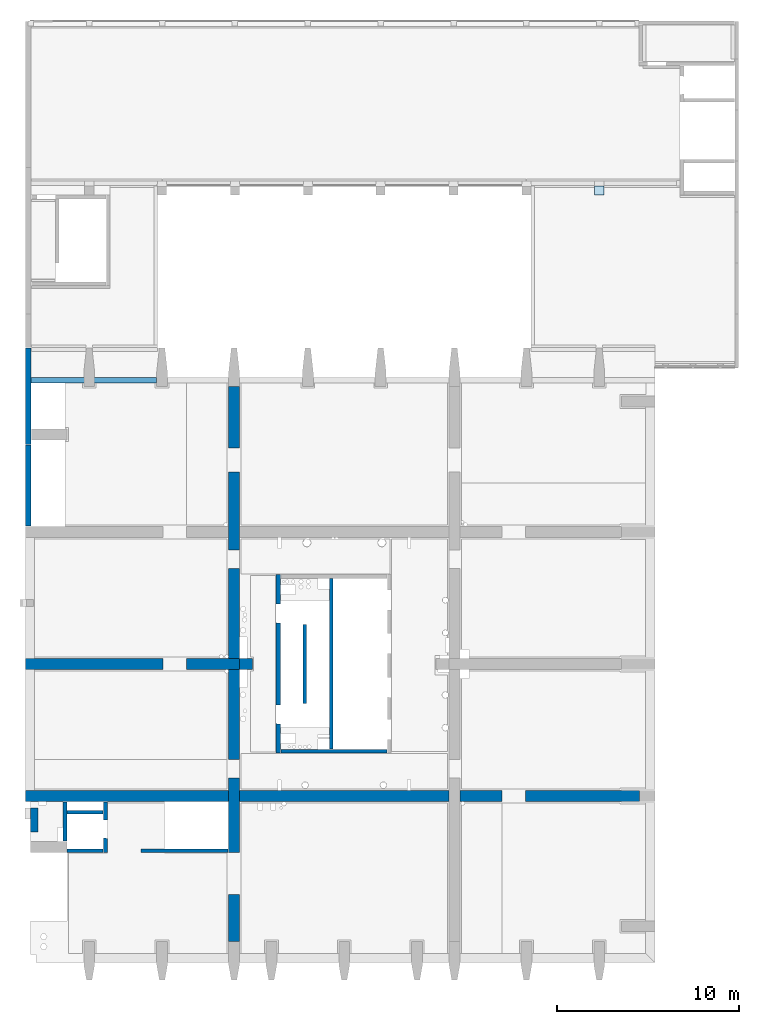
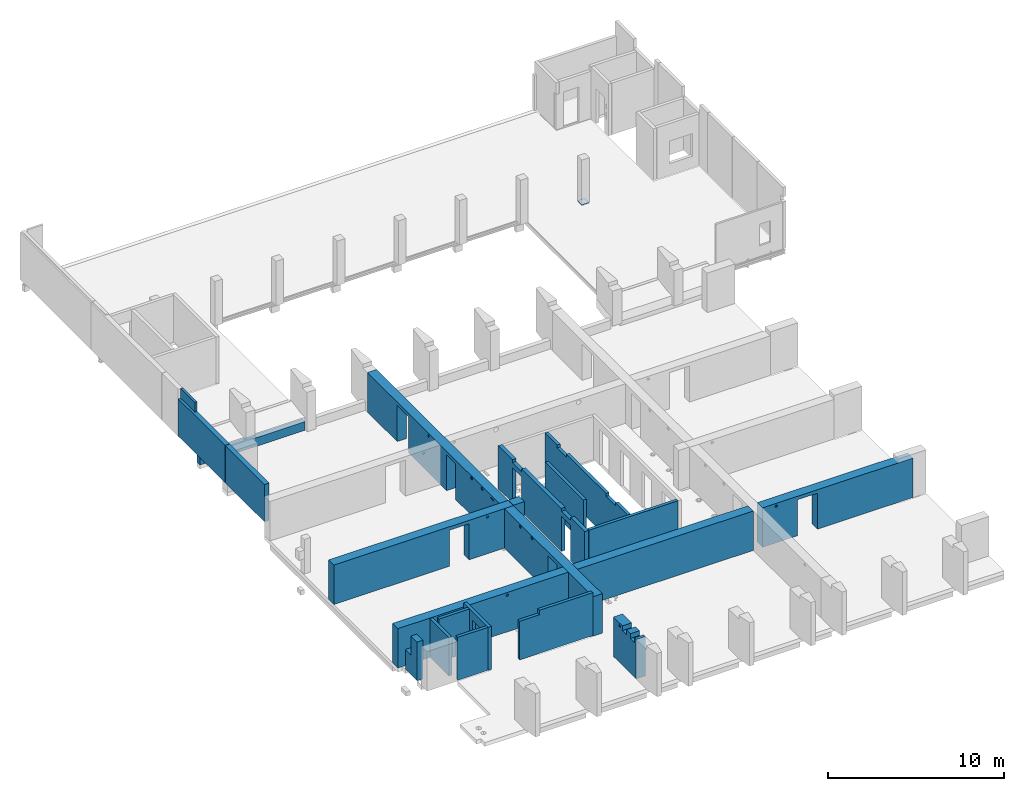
# One storey, part 7 of 10: 17 walls, 1 slab, 39 openings.
"""IFC2X3 building model written with IfcOpenShell, lengths in millimetres."""

from ifc_helpers import new_model, entity, si_unit, converted_unit, derived_unit, direction, frame, frame_2d, origin, origin_2d_with_axis, place, context, subcontext, project, spatial, polyline, rectangle, circle, extrude, clip, bounded_halfspace, faceted_brep, material, layer, layer_set, layer_usage, type_object, element, save


model = new_model("IFC2X3")

# Units and contexts
model_context = context("Model", 3, precision=0.01, world=origin(), true_north=direction((6.12303176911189e-17, 1.0)))
body_context = subcontext(model_context, "Body", "Model", "MODEL_VIEW")
ifc_project = project(units=[si_unit("LENGTHUNIT", "METRE", prefix="MILLI"), si_unit("AREAUNIT", "SQUARE_METRE"), si_unit("VOLUMEUNIT", "CUBIC_METRE"), converted_unit("PLANEANGLEUNIT", "DEGREE", entity("IfcRatioMeasure", 0.0174532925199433), si_unit("PLANEANGLEUNIT", "RADIAN"), dimensions=[0, 0, 0, 0, 0, 0, 0]), si_unit("MASSUNIT", "GRAM", prefix="KILO"), derived_unit("MASSDENSITYUNIT", [(si_unit("MASSUNIT", "GRAM", prefix="KILO"), 1), (si_unit("LENGTHUNIT", "METRE"), -3)]), si_unit("TIMEUNIT", "SECOND"), si_unit("FREQUENCYUNIT", "HERTZ"), si_unit("THERMODYNAMICTEMPERATUREUNIT", "DEGREE_CELSIUS"), derived_unit("THERMALTRANSMITTANCEUNIT", [(si_unit("MASSUNIT", "GRAM", prefix="KILO"), 1), (si_unit("THERMODYNAMICTEMPERATUREUNIT", "KELVIN"), -1), (si_unit("TIMEUNIT", "SECOND"), -3)]), derived_unit("VOLUMETRICFLOWRATEUNIT", [(si_unit("LENGTHUNIT", "METRE"), 3), (si_unit("TIMEUNIT", "SECOND"), -1)]), si_unit("ELECTRICCURRENTUNIT", "AMPERE"), si_unit("ELECTRICVOLTAGEUNIT", "VOLT"), si_unit("POWERUNIT", "WATT"), si_unit("FORCEUNIT", "NEWTON", prefix="KILO"), si_unit("ILLUMINANCEUNIT", "LUX"), si_unit("LUMINOUSFLUXUNIT", "LUMEN"), si_unit("LUMINOUSINTENSITYUNIT", "CANDELA"), derived_unit("USERDEFINED", [(si_unit("MASSUNIT", "GRAM", prefix="KILO"), -1), (si_unit("LENGTHUNIT", "METRE"), -2), (si_unit("TIMEUNIT", "SECOND"), 3), (si_unit("LUMINOUSFLUXUNIT", "LUMEN"), 1)]), derived_unit("LINEARVELOCITYUNIT", [(si_unit("LENGTHUNIT", "METRE"), 1), (si_unit("TIMEUNIT", "SECOND"), -1)]), si_unit("PRESSUREUNIT", "PASCAL"), derived_unit("USERDEFINED", [(si_unit("LENGTHUNIT", "METRE"), -2), (si_unit("MASSUNIT", "GRAM", prefix="KILO"), 1), (si_unit("TIMEUNIT", "SECOND"), -2)])], contexts=[model_context])

# Site, building, storey
site_placement = place(None, origin())
site = spatial("IfcSite", under=ifc_project, at=site_placement, Name="Default", CompositionType="ELEMENT")
building_placement = place(site_placement, origin())
building = spatial("IfcBuilding", under=site, at=building_placement, Name="niet gebruiken", CompositionType="ELEMENT")
storey_placement = place(building_placement, frame((0.0, 0.0, 9000.0)))
storey = spatial("IfcBuildingStorey", under=building, at=storey_placement, Name="02 tweede verdieping", CompositionType="ELEMENT", Elevation=9000.00000000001)

# Slab
ifc_material_1 = material(Name="NLRS_f2_beton ihwg")
ifc_layer_1 = layer(ifc_material_1, 70.0)
ifc_layer_set_1 = layer_set([ifc_layer_1], Name="Floor:NLRS_23.21_FL_druklaag d=70_gen")
ifc_layer_usage_1 = layer_usage(ifc_layer_set_1, "AXIS3", "POSITIVE", 0.0)
slab_placement = place(storey_placement, frame((124550.0, 38470.0, 740.0)))
element("IfcSlab", 1, at=slab_placement, inside=storey, material=ifc_layer_usage_1, Name="Floor:NLRS_23.21_FL_druklaag d=70_gen:3", ObjectType="Floor:NLRS_23.21_FL_druklaag d=70_gen", PredefinedType="FLOOR", context=body_context, shape_type="SweptSolid", body=[
    extrude(rectangle(XDim=499.999999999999, YDim=499.999999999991, at=frame_2d((-14515.0, -2120.0), x_axis=(0.0, -1.0))), frame((16685.0, 7150.0, 70.0), z_axis=(0.0, 0.0, -1.0), x_axis=(-1.0, 0.0, 0.0)), (0.0, 0.0, 1.0), 70.0000000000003),
])

# Wall, openings
ifc_layer_2 = layer(ifc_material_1, 600.0)
ifc_layer_set_2 = layer_set([ifc_layer_2], Name="Basic Wall:NLRS_22.21_WA_beton ihwg d=600_gen")
ifc_layer_usage_2 = layer_usage(ifc_layer_set_2, "AXIS2", "NEGATIVE", 300.0)
wall_type_1 = type_object("IfcWallType", Name="Basic Wall:NLRS_22.21_WA_beton ihwg d=600_gen", PredefinedType="STANDARD", material=ifc_layer_set_2)
wall_1_placement = place(storey_placement, frame((124250.0, 10250.0, -90.0)))
wall_1 = element("IfcWallStandardCase", 2, at=wall_1_placement, inside=storey, type_object=wall_type_1, material=ifc_layer_usage_2, Name="Basic Wall:NLRS_22.21_WA_beton ihwg d=600_gen", ObjectType="Basic Wall:NLRS_22.21_WA_beton ihwg d=600_gen", context=body_context, shape_type="SweptSolid", body=[
    extrude(rectangle(XDim=33701.2869612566, YDim=600.000000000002, at=frame_2d((16850.6434806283, 0.0), x_axis=(-1.0, 0.0))), origin(), (0.0, 0.0, 1.0), 2730.0),
])
opening_1_placement = place(storey_placement, frame((124250.0, 10250.0, -90.0)))
element("IfcOpeningElement", 3, at=opening_1_placement, cuts=wall_1, Name="Basic Wall:NLRS_22.21_WA_beton ihwg d=600_gen:1", ObjectType="Opening", context=body_context, shape_type="SweptSolid", body=[
    extrude(rectangle(XDim=2730.0, YDim=600.0, at=origin_2d_with_axis()), frame((11150.0, 0.0, 1365.0), z_axis=(1.0, 0.0, 0.0), x_axis=(0.0, 0.0, -1.0)), (0.0, 0.0, 1.0), 600.000000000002),
])
opening_2_placement = place(storey_placement, frame((124250.0, 10250.0, -90.0)))
element("IfcOpeningElement", 4, at=opening_2_placement, cuts=wall_1, Name="Basic Wall:NLRS_22.21_WA_beton ihwg d=600_gen:2", ObjectType="Opening", context=body_context, shape_type="SweptSolid", body=[
    extrude(rectangle(XDim=2730.0, YDim=600.0, at=frame_2d((0.0, -1.08002495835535e-12), x_axis=(1.0, 0.0))), frame((23250.0, 0.0, 1365.0), z_axis=(1.0, 0.0, 0.0), x_axis=(0.0, 0.0, -1.0)), (0.0, 0.0, 1.0), 600.000000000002),
])
opening_3_placement = place(wall_1_placement, origin())
element("IfcOpeningElement", 5, at=opening_3_placement, cuts=wall_1, Name="Basic Wall:NLRS_22.21_WA_beton ihwg d=600_gen", ObjectType="Opening", context=body_context, shape_type="SweptSolid", body=[
    extrude(rectangle(XDim=2490.0, YDim=1300.0, at=frame_2d((1.70530256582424e-12, -8.69704308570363e-12), x_axis=(1.0, 0.0))), frame((26800.0, -300.0, 1245.0), z_axis=(0.0, 1.0, 0.0), x_axis=(0.0, 0.0, -1.0)), (0.0, 0.0, 1.0), 600.0),
])
opening_4_placement = place(wall_1_placement, origin())
element("IfcOpeningElement", 6, at=opening_4_placement, cuts=wall_1, Name="Basic Wall:NLRS_22.21_WA_beton ihwg d=600_gen", ObjectType="Opening", context=body_context, shape_type="SweptSolid", body=[
    extrude(circle(Radius=80.0, at=origin_2d_with_axis()), frame((7150.0, -300.0, 2540.0), z_axis=(0.0, 1.0, 0.0), x_axis=(-1.0, 0.0, 0.0)), (0.0, 0.0, 1.0), 600.0),
])
opening_5_placement = place(wall_1_placement, origin())
element("IfcOpeningElement", 7, at=opening_5_placement, cuts=wall_1, Name="Basic Wall:NLRS_22.21_WA_beton ihwg d=600_gen", ObjectType="Opening", context=body_context, shape_type="SweptSolid", body=[
    extrude(circle(Radius=80.0, at=origin_2d_with_axis()), frame((24750.0, -300.0, 2540.0), z_axis=(0.0, 1.0, 0.0), x_axis=(-1.0, 0.0, 0.0)), (0.0, 0.0, 1.0), 600.0),
])

ifc_layer_usage_3 = layer_usage(ifc_layer_set_2, "AXIS2", "NEGATIVE", 300.0)
wall_2_placement = place(storey_placement, frame((124250.0, 17500.0, -90.0)))
wall_2 = element("IfcWallStandardCase", 8, at=wall_2_placement, inside=storey, type_object=wall_type_1, material=ifc_layer_usage_3, Name="Basic Wall:NLRS_22.21_WA_beton ihwg d=600_gen", ObjectType="Basic Wall:NLRS_22.21_WA_beton ihwg d=600_gen", context=body_context, shape_type="SweptSolid", body=[
    extrude(rectangle(XDim=11750.0000000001, YDim=599.999999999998, at=frame_2d((5875.00000000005, 0.0), x_axis=(-1.0, 0.0))), origin(), (0.0, 0.0, 1.0), 2730.0),
])
opening_6_placement = place(wall_2_placement, origin())
element("IfcOpeningElement", 9, at=opening_6_placement, cuts=wall_2, Name="Basic Wall:NLRS_22.21_WA_beton ihwg d=600_gen", ObjectType="Opening", context=body_context, shape_type="SweptSolid", body=[
    extrude(rectangle(XDim=2490.0, YDim=1300.0, at=frame_2d((-5.6843418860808e-13, 8.69704308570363e-12), x_axis=(1.0, 0.0))), frame((8200.0, -300.0, 1245.0), z_axis=(0.0, 1.0, 0.0), x_axis=(0.0, 0.0, -1.0)), (0.0, 0.0, 1.0), 600.0),
])
opening_7_placement = place(wall_2_placement, origin())
element("IfcOpeningElement", 10, at=opening_7_placement, cuts=wall_2, Name="Basic Wall:NLRS_22.21_WA_beton ihwg d=600_gen", ObjectType="Opening", context=body_context, shape_type="SweptSolid", body=[
    extrude(circle(Radius=80.0, at=origin_2d_with_axis()), frame((10050.0, -300.0, 2540.0), z_axis=(0.0, 1.0, 0.0), x_axis=(1.0, 0.0, 0.0)), (0.0, 0.0, 1.0), 600.0),
])

ifc_layer_usage_4 = layer_usage(ifc_layer_set_2, "AXIS2", "NEGATIVE", 300.0)
wall_3_placement = place(storey_placement, frame((135700.0, 2270.0, -90.0), z_axis=(0.0, 0.0, 1.0), x_axis=(0.0, 1.0, 0.0)))
wall_3 = element("IfcWallStandardCase", 11, at=wall_3_placement, inside=storey, type_object=wall_type_1, material=ifc_layer_usage_4, Name="Basic Wall:NLRS_22.21_WA_beton ihwg d=600_gen", ObjectType="Basic Wall:NLRS_22.21_WA_beton ihwg d=600_gen", context=body_context, shape_type="SweptSolid", body=[
    extrude(rectangle(XDim=30460.0000000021, YDim=600.000000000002, at=frame_2d((15230.000000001, 8.5265128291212e-13), x_axis=(-1.0, 0.0))), origin(), (0.0, 0.0, 1.0), 2730.0),
])
opening_8_placement = place(storey_placement, frame((135700.0, 2270.0, -90.0), z_axis=(0.0, 0.0, 1.0), x_axis=(0.0, 1.0, 0.0)))
element("IfcOpeningElement", 12, at=opening_8_placement, cuts=wall_3, Name="Basic Wall:NLRS_22.21_WA_beton ihwg d=600_gen:1", ObjectType="Opening", context=body_context, shape_type="SweptSolid", body=[
    extrude(rectangle(XDim=2730.0, YDim=600.000000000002, at=origin_2d_with_axis()), frame((14930.0, 0.0, 1365.0), z_axis=(1.0, 0.0, 0.0), x_axis=(0.0, 0.0, -1.0)), (0.0, 0.0, 1.0), 600.0),
])
opening_9_placement = place(wall_3_placement, origin())
element("IfcOpeningElement", 13, at=opening_9_placement, cuts=wall_3, Name="Basic Wall:NLRS_22.21_WA_beton ihwg d=600_gen", ObjectType="Opening", context=body_context, shape_type="SweptSolid", body=[
    extrude(rectangle(XDim=2475.0, YDim=1016.0, at=frame_2d((-5.6843418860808e-13, 1.08002495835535e-12), x_axis=(1.0, 0.0))), frame((9488.0, -300.0, 1237.5), z_axis=(0.0, 1.0, 0.0), x_axis=(0.0, 0.0, -1.0)), (0.0, 0.0, 1.0), 600.000000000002),
])
opening_10_placement = place(wall_3_placement, origin())
element("IfcOpeningElement", 14, at=opening_10_placement, cuts=wall_3, Name="Basic Wall:NLRS_22.21_WA_beton ihwg d=600_gen", ObjectType="Opening", context=body_context, shape_type="SweptSolid", body=[
    extrude(rectangle(XDim=2475.0, YDim=1016.0, at=frame_2d((-5.6843418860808e-13, -2.1600499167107e-12), x_axis=(1.0, 0.0))), frame((20972.0, -300.0, 1237.5), z_axis=(0.0, 1.0, 0.0), x_axis=(0.0, 0.0, -1.0)), (0.0, 0.0, 1.0), 600.000000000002),
])
opening_11_placement = place(wall_3_placement, origin())
element("IfcOpeningElement", 15, at=opening_11_placement, cuts=wall_3, Name="Basic Wall:NLRS_22.21_WA_beton ihwg d=600_gen", ObjectType="Opening", context=body_context, shape_type="SweptSolid", body=[
    extrude(rectangle(XDim=2490.0, YDim=1300.0, at=frame_2d((-5.6843418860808e-13, 0.0), x_axis=(1.0, 0.0))), frame((26430.0, -300.0, 1245.0), z_axis=(0.0, 1.0, 0.0), x_axis=(0.0, 0.0, -1.0)), (0.0, 0.0, 1.0), 600.000000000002),
])
opening_12_placement = place(wall_3_placement, origin())
element("IfcOpeningElement", 16, at=opening_12_placement, cuts=wall_3, Name="Basic Wall:NLRS_22.21_WA_beton ihwg d=600_gen", ObjectType="Opening", context=body_context, shape_type="SweptSolid", body=[
    extrude(rectangle(XDim=2730.0, YDim=2300.0, at=frame_2d((5.6843418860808e-13, -3.41060513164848e-13), x_axis=(1.0, 0.0))), frame((3730.0, -300.0, 1365.0), z_axis=(0.0, 1.0, 0.0), x_axis=(0.0, 0.0, -1.0)), (0.0, 0.0, 1.0), 600.000000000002),
])
opening_13_placement = place(wall_3_placement, origin())
element("IfcOpeningElement", 17, at=opening_13_placement, cuts=wall_3, Name="Basic Wall:NLRS_22.21_WA_beton ihwg d=600_gen", ObjectType="Opening", context=body_context, shape_type="SweptSolid", body=[
    extrude(rectangle(XDim=325.0, YDim=450.000000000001, at=frame_2d((0.0, -2.70006239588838e-13), x_axis=(1.0, 0.0))), frame((430.0, -300.0, 2567.5), z_axis=(0.0, 1.0, 0.0), x_axis=(0.0, 0.0, -1.0)), (0.0, 0.0, 1.0), 600.000000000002),
])
opening_14_placement = place(wall_3_placement, origin())
element("IfcOpeningElement", 18, at=opening_14_placement, cuts=wall_3, Name="Basic Wall:NLRS_22.21_WA_beton ihwg d=600_gen", ObjectType="Opening", context=body_context, shape_type="SweptSolid", body=[
    extrude(rectangle(XDim=325.0, YDim=450.000000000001, at=frame_2d((0.0, 2.70006239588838e-13), x_axis=(1.0, 0.0))), frame((1330.0, -300.0, 2567.5), z_axis=(0.0, 1.0, 0.0), x_axis=(0.0, 0.0, -1.0)), (0.0, 0.0, 1.0), 600.000000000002),
])
opening_15_placement = place(wall_3_placement, origin())
element("IfcOpeningElement", 19, at=opening_15_placement, cuts=wall_3, Name="Basic Wall:NLRS_22.21_WA_beton ihwg d=600_gen", ObjectType="Opening", context=body_context, shape_type="SweptSolid", body=[
    extrude(circle(Radius=80.0, at=origin_2d_with_axis()), frame((23530.0, -300.0, 2540.0), z_axis=(0.0, 1.0, 0.0), x_axis=(1.0, 0.0, 0.0)), (0.0, 0.0, 1.0), 600.000000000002),
])
opening_16_placement = place(wall_3_placement, origin())
element("IfcOpeningElement", 20, at=opening_16_placement, cuts=wall_3, Name="Basic Wall:NLRS_22.21_WA_beton ihwg d=600_gen", ObjectType="Opening", context=body_context, shape_type="SweptSolid", body=[
    extrude(circle(Radius=100.0, at=origin_2d_with_axis()), frame((11810.0000242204, -300.0, 2570.0), z_axis=(0.0, 1.0, 0.0), x_axis=(1.0, 0.0, 0.0)), (0.0, 0.0, 1.0), 600.000000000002),
])
opening_17_placement = place(wall_3_placement, origin())
element("IfcOpeningElement", 21, at=opening_17_placement, cuts=wall_3, Name="Basic Wall:NLRS_22.21_WA_beton ihwg d=600_gen", ObjectType="Opening", context=body_context, shape_type="SweptSolid", body=[
    extrude(circle(Radius=100.0, at=origin_2d_with_axis()), frame((13124.9999601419, -300.0, 2570.0), z_axis=(0.0, 1.0, 0.0), x_axis=(1.0, 0.0, 0.0)), (0.0, 0.0, 1.0), 600.000000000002),
])
opening_18_placement = place(wall_3_placement, origin())
element("IfcOpeningElement", 22, at=opening_18_placement, cuts=wall_3, Name="Basic Wall:NLRS_22.21_WA_beton ihwg d=600_gen", ObjectType="Opening", context=body_context, shape_type="SweptSolid", body=[
    extrude(circle(Radius=100.0, at=origin_2d_with_axis()), frame((18650.0000417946, -300.0, 2570.0), z_axis=(0.0, 1.0, 0.0), x_axis=(1.0, 0.0, 0.0)), (0.0, 0.0, 1.0), 600.000000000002),
])
opening_19_placement = place(wall_3_placement, origin())
element("IfcOpeningElement", 23, at=opening_19_placement, cuts=wall_3, Name="Basic Wall:NLRS_22.21_WA_beton ihwg d=600_gen", ObjectType="Opening", context=body_context, shape_type="SweptSolid", body=[
    extrude(circle(Radius=100.0, at=origin_2d_with_axis()), frame((17460.0, -300.0, 2570.0), z_axis=(0.0, 1.0, 0.0), x_axis=(1.0, 0.0, 0.0)), (0.0, 0.0, 1.0), 600.000000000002),
])
opening_20_placement = place(wall_3_placement, origin())
element("IfcOpeningElement", 24, at=opening_20_placement, cuts=wall_3, Name="Basic Wall:NLRS_22.21_WA_beton ihwg d=600_gen", ObjectType="Opening", context=body_context, shape_type="SweptSolid", body=[
    extrude(circle(Radius=62.5, at=origin_2d_with_axis()), frame((16420.0, -300.0, 2540.0), z_axis=(0.0, 1.0, 0.0), x_axis=(1.0, 0.0, 0.0)), (0.0, 0.0, 1.0), 600.000000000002),
])
opening_21_placement = place(wall_3_placement, origin())
element("IfcOpeningElement", 25, at=opening_21_placement, cuts=wall_3, Name="Basic Wall:NLRS_22.21_WA_beton ihwg d=600_gen", ObjectType="Opening", context=body_context, shape_type="SweptSolid", body=[
    extrude(circle(Radius=62.5, at=origin_2d_with_axis()), frame((16220.0, -300.0, 2540.0), z_axis=(0.0, 1.0, 0.0), x_axis=(1.0, 0.0, 0.0)), (0.0, 0.0, 1.0), 600.000000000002),
])
opening_22_placement = place(wall_3_placement, origin())
element("IfcOpeningElement", 26, at=opening_22_placement, cuts=wall_3, Name="Basic Wall:NLRS_22.21_WA_beton ihwg d=600_gen", ObjectType="Opening", context=body_context, shape_type="SweptSolid", body=[
    extrude(circle(Radius=80.0, at=origin_2d_with_axis()), frame((1855.0, -300.0, 2540.0), z_axis=(0.0, 1.0, 0.0), x_axis=(1.0, 0.0, 0.0)), (0.0, 0.0, 1.0), 600.000000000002),
])

# Walls
ifc_layer_usage_5 = layer_usage(ifc_layer_set_2, "AXIS2", "NEGATIVE", 300.0)
wall_4_placement = place(storey_placement, frame((136000.0, 17500.0, -90.0)))
element("IfcWallStandardCase", 27, at=wall_4_placement, inside=storey, type_object=wall_type_1, material=ifc_layer_usage_5, Name="Basic Wall:NLRS_22.21_WA_beton ihwg d=600_gen", ObjectType="Basic Wall:NLRS_22.21_WA_beton ihwg d=600_gen", context=body_context, shape_type="Clipping", body=[
    clip(extrude(rectangle(XDim=699.999999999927, YDim=600.000000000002, at=frame_2d((349.999999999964, 0.0), x_axis=(-1.0, 0.0))), origin(), (0.0, 0.0, 1.0), 2760.0), bounded_halfspace(frame((0.0, -300.0, 2760.0), z_axis=(0.0, 0.0, -1.0), x_axis=(0.0, -1.0, 0.0)), True, frame((0.0, -300.0, 2760.0), z_axis=(0.0, 0.0, -1.0), x_axis=(0.0, -1.0, 0.0)), polyline([(0.0, 0.0), (-600.0, 0.0), (-600.0, -400.0), (-600.0, -700.0), (0.0, -700.0), (0.0, -400.0), (0.0, 0.0)]))),
])
ifc_material_2 = material(Name="NLRS_f2_beton prefab")
ifc_layer_3 = layer(ifc_material_2, 200.0)
ifc_layer_set_3 = layer_set([ifc_layer_3], Name="Basic Wall:NLRS_22.21_WA_beton prefab d=200_gen")
ifc_layer_usage_6 = layer_usage(ifc_layer_set_3, "AXIS2", "NEGATIVE", 100.0)
wall_type_2 = type_object("IfcWallType", Name="Basic Wall:NLRS_22.21_WA_beton prefab d=200_gen", PredefinedType="STANDARD", material=ifc_layer_set_3)
wall_5_placement = place(storey_placement, frame((126420.0, 7770.0, -50.0), z_axis=(0.0, 0.0, 1.0), x_axis=(0.0, 1.0, 0.0)))
element("IfcWallStandardCase", 28, at=wall_5_placement, inside=storey, type_object=wall_type_2, material=ifc_layer_usage_6, Name="Basic Wall:NLRS_22.21_WA_beton prefab d=200_gen", ObjectType="Basic Wall:NLRS_22.21_WA_beton prefab d=200_gen", context=body_context, shape_type="SweptSolid", body=[
    extrude(rectangle(XDim=2160.0, YDim=199.999999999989, at=frame_2d((1080.0, 0.0), x_axis=(-1.0, 0.0))), origin(), (0.0, 0.0, 1.0), 2670.0),
])

# Wall, opening
ifc_layer_usage_7 = layer_usage(ifc_layer_set_3, "AXIS2", "NEGATIVE", 100.0)
wall_6_placement = place(storey_placement, frame((128640.0, 7150.0, -50.0), z_axis=(0.0, 0.0, 1.0), x_axis=(0.0, 1.0, 0.0)))
wall_6 = element("IfcWallStandardCase", 29, at=wall_6_placement, inside=storey, type_object=wall_type_2, material=ifc_layer_usage_7, Name="Basic Wall:NLRS_22.21_WA_beton prefab d=200_gen", ObjectType="Basic Wall:NLRS_22.21_WA_beton prefab d=200_gen", context=body_context, shape_type="SweptSolid", body=[
    extrude(rectangle(XDim=2779.99999999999, YDim=199.999999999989, at=frame_2d((1390.0, 0.0), x_axis=(-1.0, 0.0))), origin(), (0.0, 0.0, 1.0), 2980.0),
])
opening_23_placement = place(wall_6_placement, frame((778.0, 100.0, 0.0)))
element("IfcOpeningElement", 30, at=opening_23_placement, cuts=wall_6, Name="Basic Wall:NLRS_22.21_WA_beton prefab d=200_gen", ObjectType="Opening", context=body_context, shape_type="Brep", body=[
    faceted_brep([(992.0, 0.0, 2390.0), (992.0, 0.0, 0.0), (12.0, 0.0, 0.0), (12.0, 0.0, 2390.0), (1004.0, -200.0, 2402.0), (0.0, -200.0, 2402.0), (0.0, -200.0, 0.0), (1004.0, -200.0, 0.0)], [[[0, 1, 2, 3]], [[4, 5, 6, 7]], [[4, 0, 3, 5]], [[5, 3, 2, 6]], [[6, 2, 1, 7]], [[7, 1, 0, 4]]]),
])

# Walls
ifc_layer_usage_8 = layer_usage(ifc_layer_set_3, "AXIS2", "NEGATIVE", 100.0)
wall_7_placement = place(storey_placement, frame((126540.0, 7250.0, -50.0)))
element("IfcWallStandardCase", 31, at=wall_7_placement, inside=storey, type_object=wall_type_2, material=ifc_layer_usage_8, Name="Basic Wall:NLRS_22.21_WA_beton prefab d=200_gen", ObjectType="Basic Wall:NLRS_22.21_WA_beton prefab d=200_gen", context=body_context, shape_type="SweptSolid", body=[
    extrude(rectangle(XDim=1979.99999999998, YDim=200.0, at=frame_2d((989.999999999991, -2.98427949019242e-13), x_axis=(-1.0, 0.0))), origin(), (0.0, 0.0, 1.0), 2980.0),
])
ifc_layer_usage_9 = layer_usage(ifc_layer_set_3, "AXIS2", "NEGATIVE", 100.0)
wall_8_placement = place(storey_placement, frame((126540.0, 9350.0, -50.0)))
element("IfcWallStandardCase", 32, at=wall_8_placement, inside=storey, type_object=wall_type_2, material=ifc_layer_usage_9, Name="Basic Wall:NLRS_22.21_WA_beton prefab d=200_gen", ObjectType="Basic Wall:NLRS_22.21_WA_beton prefab d=200_gen", context=body_context, shape_type="SweptSolid", body=[
    extrude(rectangle(XDim=1980.0, YDim=200.0, at=frame_2d((990.0, -2.98427949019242e-13), x_axis=(-1.0, 0.0))), origin(), (0.0, 0.0, 1.0), 2980.0),
])

# Wall, openings
ifc_layer_usage_10 = layer_usage(ifc_layer_set_3, "AXIS2", "NEGATIVE", 100.0)
wall_9_placement = place(storey_placement, frame((141030.0, 22180.0, -50.0), z_axis=(0.0, 0.0, 1.0), x_axis=(0.0, -1.0, 0.0)))
wall_9 = element("IfcWallStandardCase", 33, at=wall_9_placement, inside=storey, type_object=wall_type_2, material=ifc_layer_usage_10, Name="Basic Wall:NLRS_22.21_WA_beton prefab d=200_gen", ObjectType="Basic Wall:NLRS_22.21_WA_beton prefab d=200_gen", context=body_context, shape_type="SweptSolid", body=[
    extrude(rectangle(XDim=9360.0, YDim=199.999999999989, at=frame_2d((4680.0, -2.8421709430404e-14), x_axis=(-1.0, 0.0))), origin(), (0.0, 0.0, 1.0), 2980.0),
])
opening_24_placement = place(wall_9_placement, origin())
element("IfcOpeningElement", 34, at=opening_24_placement, cuts=wall_9, Name="Basic Wall:NLRS_22.21_WA_beton prefab d=200_gen", ObjectType="Opening", context=body_context, shape_type="SweptSolid", body=[
    extrude(rectangle(XDim=70.0000000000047, YDim=1044.0, at=frame_2d((-5.40012479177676e-13, 0.0), x_axis=(1.0, 0.0))), frame((7452.0, -100.0, 35.0), z_axis=(0.0, 1.0, 0.0), x_axis=(0.0, 0.0, -1.0)), (0.0, 0.0, 1.0), 199.999999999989),
])
opening_25_placement = place(wall_9_placement, origin())
element("IfcOpeningElement", 35, at=opening_25_placement, cuts=wall_9, Name="Basic Wall:NLRS_22.21_WA_beton prefab d=200_gen", ObjectType="Opening", context=body_context, shape_type="SweptSolid", body=[
    extrude(rectangle(XDim=199.999999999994, YDim=1044.0, at=frame_2d((0.0, 2.1600499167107e-12), x_axis=(1.0, 0.0))), frame((1908.0, -100.0, 2880.0), z_axis=(0.0, 1.0, 0.0), x_axis=(0.0, 0.0, -1.0)), (0.0, 0.0, 1.0), 199.999999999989),
])
opening_26_placement = place(wall_9_placement, origin())
element("IfcOpeningElement", 36, at=opening_26_placement, cuts=wall_9, Name="Basic Wall:NLRS_22.21_WA_beton prefab d=200_gen", ObjectType="Opening", context=body_context, shape_type="SweptSolid", body=[
    extrude(rectangle(XDim=199.999999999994, YDim=1044.0, at=origin_2d_with_axis()), frame((7452.0, -100.0, 2880.0), z_axis=(0.0, 1.0, 0.0), x_axis=(0.0, 0.0, -1.0)), (0.0, 0.0, 1.0), 199.999999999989),
])
opening_27_placement = place(wall_9_placement, origin())
element("IfcOpeningElement", 37, at=opening_27_placement, cuts=wall_9, Name="Basic Wall:NLRS_22.21_WA_beton prefab d=200_gen", ObjectType="Opening", context=body_context, shape_type="SweptSolid", body=[
    extrude(rectangle(XDim=70.0000000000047, YDim=1044.0, at=frame_2d((-5.40012479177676e-13, 2.1600499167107e-12), x_axis=(1.0, 0.0))), frame((1908.0, -100.0, 35.0), z_axis=(0.0, 1.0, 0.0), x_axis=(0.0, 0.0, -1.0)), (0.0, 0.0, 1.0), 199.999999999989),
])
opening_28_placement = place(wall_9_placement, origin())
element("IfcOpeningElement", 38, at=opening_28_placement, cuts=wall_9, Name="Basic Wall:NLRS_22.21_WA_beton prefab d=200_gen", ObjectType="Recess", context=body_context, shape_type="SweptSolid", body=[
    extrude(rectangle(XDim=399.999999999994, YDim=280.000000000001, at=frame_2d((2.1600499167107e-12, 0.0), x_axis=(0.0, 1.0))), frame((770.0, -60.0, 438.0), z_axis=(0.0, 1.0, 0.0), x_axis=(1.0, 0.0, 0.0)), (0.0, 0.0, 1.0), 159.999999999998),
])
opening_29_placement = place(wall_9_placement, origin())
element("IfcOpeningElement", 39, at=opening_29_placement, cuts=wall_9, Name="Basic Wall:NLRS_22.21_WA_beton prefab d=200_gen", ObjectType="Recess", context=body_context, shape_type="SweptSolid", body=[
    extrude(rectangle(XDim=399.999999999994, YDim=280.000000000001, at=frame_2d((2.1600499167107e-12, 1.08002495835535e-12), x_axis=(0.0, 1.0))), frame((1570.0, -60.0, 438.0), z_axis=(0.0, 1.0, 0.0), x_axis=(1.0, 0.0, 0.0)), (0.0, 0.0, 1.0), 159.999999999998),
])
opening_30_placement = place(wall_9_placement, origin())
element("IfcOpeningElement", 40, at=opening_30_placement, cuts=wall_9, Name="Basic Wall:NLRS_22.21_WA_beton prefab d=200_gen", ObjectType="Recess", context=body_context, shape_type="SweptSolid", body=[
    extrude(rectangle(XDim=399.999999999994, YDim=279.999999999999, at=frame_2d((1.08002495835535e-12, -1.08002495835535e-12), x_axis=(0.0, 1.0))), frame((3160.0, -60.0, 438.0), z_axis=(0.0, 1.0, 0.0), x_axis=(1.0, 0.0, 0.0)), (0.0, 0.0, 1.0), 159.999999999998),
])
opening_31_placement = place(wall_9_placement, origin())
element("IfcOpeningElement", 41, at=opening_31_placement, cuts=wall_9, Name="Basic Wall:NLRS_22.21_WA_beton prefab d=200_gen", ObjectType="Recess", context=body_context, shape_type="SweptSolid", body=[
    extrude(rectangle(XDim=399.999999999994, YDim=279.999999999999, at=frame_2d((-1.08002495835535e-12, 0.0), x_axis=(0.0, 1.0))), frame((3960.0, -60.0, 438.0), z_axis=(0.0, 1.0, 0.0), x_axis=(1.0, 0.0, 0.0)), (0.0, 0.0, 1.0), 159.999999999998),
])

# Walls
ifc_layer_usage_11 = layer_usage(ifc_layer_set_3, "AXIS2", "NEGATIVE", 100.0)
wall_10_placement = place(storey_placement, frame((139590.0, 19660.0, -50.0), z_axis=(0.0, 0.0, 1.0), x_axis=(0.0, -1.0, 0.0)))
element("IfcWallStandardCase", 42, at=wall_10_placement, inside=storey, type_object=wall_type_2, material=ifc_layer_usage_11, Name="Basic Wall:NLRS_22.21_WA_beton prefab d=200_gen", ObjectType="Basic Wall:NLRS_22.21_WA_beton prefab d=200_gen", context=body_context, shape_type="SweptSolid", body=[
    extrude(rectangle(XDim=4320.00000000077, YDim=199.999999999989, at=frame_2d((2160.00000000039, 0.0), x_axis=(-1.0, 0.0))), origin(), (0.0, 0.0, 1.0), 2980.0),
])
ifc_layer_usage_12 = layer_usage(ifc_layer_set_3, "AXIS2", "NEGATIVE", 100.0)
wall_11_placement = place(storey_placement, frame((138270.0, 12700.0, -50.0)))
element("IfcWallStandardCase", 43, at=wall_11_placement, inside=storey, type_object=wall_type_2, material=ifc_layer_usage_12, Name="Basic Wall:NLRS_22.21_WA_beton prefab d=200_gen", ObjectType="Basic Wall:NLRS_22.21_WA_beton prefab d=200_gen", context=body_context, shape_type="SweptSolid", body=[
    extrude(rectangle(XDim=5840.00000000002, YDim=199.999999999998, at=frame_2d((2920.00000000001, -6.82121026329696e-13), x_axis=(-1.0, 0.0))), origin(), (0.0, 0.0, 1.0), 2980.0),
])

# Wall, opening
ifc_layer_usage_13 = layer_usage(ifc_layer_set_3, "AXIS2", "NEGATIVE", 100.0)
wall_12_placement = place(storey_placement, frame((130600.0, 7250.0, -50.0)))
wall_12 = element("IfcWallStandardCase", 44, at=wall_12_placement, inside=storey, type_object=wall_type_2, material=ifc_layer_usage_13, Name="Basic Wall:NLRS_22.21_WA_beton prefab d=200_gen", ObjectType="Basic Wall:NLRS_22.21_WA_beton prefab d=200_gen", context=body_context, shape_type="SweptSolid", body=[
    extrude(rectangle(XDim=4780.00000000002, YDim=200.0, at=frame_2d((2390.00000000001, 7.105427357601e-14), x_axis=(-1.0, 0.0))), origin(), (0.0, 0.0, 1.0), 2980.0),
])
opening_32_placement = place(wall_12_placement, origin())
element("IfcOpeningElement", 45, at=opening_32_placement, cuts=wall_12, Name="Basic Wall:NLRS_22.21_WA_beton prefab d=200_gen", ObjectType="Opening", context=body_context, shape_type="SweptSolid", body=[
    extrude(rectangle(XDim=309.999999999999, YDim=1290.0, at=frame_2d((8.69704308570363e-12, 0.0), x_axis=(0.0, 1.0))), frame((645.0, 100.0, 2825.0), z_axis=(0.0, -1.0, 0.0), x_axis=(-1.0, 0.0, 0.0)), (0.0, 0.0, 1.0), 200.0),
])

# Wall
ifc_layer_4 = layer(ifc_material_2, 300.0)
ifc_layer_set_4 = layer_set([ifc_layer_4], Name="Basic Wall:NLRS_22.21_WA_beton prefab d=300_gen")
ifc_layer_usage_14 = layer_usage(ifc_layer_set_4, "AXIS2", "NEGATIVE", 150.0)
wall_type_3 = type_object("IfcWallType", Name="Basic Wall:NLRS_22.21_WA_beton prefab d=300_gen", PredefinedType="STANDARD", material=ifc_layer_set_4)
wall_13_placement = place(storey_placement, frame((124400.0, 25070.0, 850.0), z_axis=(0.0, 0.0, 1.0), x_axis=(0.0, 1.0, 0.0)))
element("IfcWallStandardCase", 46, at=wall_13_placement, inside=storey, type_object=wall_type_3, material=ifc_layer_usage_14, Name="Basic Wall:NLRS_22.21_WA_beton prefab d=300_gen", ObjectType="Basic Wall:NLRS_22.21_WA_beton prefab d=300_gen", context=body_context, shape_type="SweptSolid", body=[
    extrude(rectangle(XDim=4450.0, YDim=300.000000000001, at=frame_2d((2225.0, 0.0), x_axis=(-1.0, 0.0))), origin(), (0.0, 0.0, 1.0), 2589.99999999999),
])

# Wall, openings
ifc_layer_usage_15 = layer_usage(ifc_layer_set_4, "AXIS2", "NEGATIVE", 150.0)
wall_14_placement = place(storey_placement, frame((124400.0, 29540.0, 850.0), z_axis=(0.0, 0.0, 1.0), x_axis=(0.0, 1.0, 0.0)))
wall_14 = element("IfcWallStandardCase", 47, at=wall_14_placement, inside=storey, type_object=wall_type_3, material=ifc_layer_usage_15, Name="Basic Wall:NLRS_22.21_WA_beton prefab d=300_gen", ObjectType="Basic Wall:NLRS_22.21_WA_beton prefab d=300_gen", context=body_context, shape_type="SweptSolid", body=[
    extrude(rectangle(XDim=5310.0, YDim=300.000000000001, at=frame_2d((2655.0, 0.0), x_axis=(-1.0, 0.0))), origin(), (0.0, 0.0, 1.0), 3260.0),
])
opening_33_placement = place(wall_14_placement, origin())
element("IfcOpeningElement", 48, at=opening_33_placement, cuts=wall_14, Name="Basic Wall:NLRS_22.21_WA_beton prefab d=300_gen", ObjectType="Recess", context=body_context, shape_type="SweptSolid", body=[
    extrude(rectangle(XDim=669.999999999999, YDim=1620.0, at=origin_2d_with_axis()), frame((4500.0, 0.0, 2925.0), z_axis=(0.0, 1.0, 0.0), x_axis=(0.0, 0.0, -1.0)), (0.0, 0.0, 1.0), 150.000000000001),
])
opening_34_placement = place(wall_14_placement, origin())
element("IfcOpeningElement", 49, at=opening_34_placement, cuts=wall_14, Name="Basic Wall:NLRS_22.21_WA_beton prefab d=300_gen", ObjectType="Opening", context=body_context, shape_type="SweptSolid", body=[
    extrude(rectangle(XDim=670.000000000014, YDim=3690.0, at=frame_2d((0.0, -1.08002495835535e-12), x_axis=(0.0, 1.0))), frame((1845.0, 150.0, 2925.0), z_axis=(0.0, -1.0, 0.0), x_axis=(-1.0, 0.0, 0.0)), (0.0, 0.0, 1.0), 300.0),
])

# Wall
ifc_layer_5 = layer(ifc_material_1, 300.0)
ifc_layer_set_5 = layer_set([ifc_layer_5], Name="Basic Wall:NLRS_21.21_WA_beton ihwg d=300_gen")
ifc_layer_usage_16 = layer_usage(ifc_layer_set_5, "AXIS2", "NEGATIVE", 150.0)
wall_type_4 = type_object("IfcWallType", Name="Basic Wall:NLRS_21.21_WA_beton ihwg d=300_gen", PredefinedType="STANDARD", material=ifc_layer_set_5)
wall_15_placement = place(storey_placement, frame((124550.0, 33080.0, -90.0)))
element("IfcWallStandardCase", 50, at=wall_15_placement, inside=storey, type_object=wall_type_4, material=ifc_layer_usage_16, Name="Basic Wall:NLRS_21.21_WA_beton ihwg d=300_gen", ObjectType="Basic Wall:NLRS_21.21_WA_beton ihwg d=300_gen", context=body_context, shape_type="SweptSolid", body=[
    extrude(rectangle(XDim=6900.00000000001, YDim=300.000000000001, at=frame_2d((3450.0, 1.17950094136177e-12), x_axis=(-1.0, 0.0))), origin(), (0.0, 0.0, 1.0), 600.0),
])

# Wall, opening
ifc_layer_6 = layer(ifc_material_2, 400.0)
ifc_layer_set_6 = layer_set([ifc_layer_6], Name="Basic Wall:NLRS_22.21_WA_beton prefab d=400_gen")
ifc_layer_usage_17 = layer_usage(ifc_layer_set_6, "AXIS2", "NEGATIVE", 200.0)
wall_type_5 = type_object("IfcWallType", Name="Basic Wall:NLRS_22.21_WA_beton prefab d=400_gen", PredefinedType="STANDARD", material=ifc_layer_set_6)
wall_16_placement = place(storey_placement, frame((124730.0, 9596.0, -50.0), z_axis=(0.0, 0.0, 1.0), x_axis=(0.0, -1.0, 0.0)))
wall_16 = element("IfcWallStandardCase", 51, at=wall_16_placement, inside=storey, type_object=wall_type_5, material=ifc_layer_usage_17, Name="Basic Wall:NLRS_22.21_WA_beton prefab d=400_gen", ObjectType="Basic Wall:NLRS_22.21_WA_beton prefab d=400_gen", context=body_context, shape_type="SweptSolid", body=[
    extrude(rectangle(XDim=1325.0, YDim=400.000000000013, at=frame_2d((662.5, 0.0), x_axis=(-1.0, 0.0))), origin(), (0.0, 0.0, 1.0), 2670.0),
])
opening_35_placement = place(wall_16_placement, origin())
element("IfcOpeningElement", 52, at=opening_35_placement, cuts=wall_16, Name="Basic Wall:NLRS_22.21_WA_beton prefab d=400_gen", ObjectType="Opening", context=body_context, shape_type="SweptSolid", body=[
    extrude(rectangle(XDim=1300.0, YDim=620.00000000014, at=frame_2d((-5.40012479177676e-13, 1.08002495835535e-12), x_axis=(0.0, 1.0))), frame((310.0, 200.0, 2020.0), z_axis=(0.0, -1.0, 0.0), x_axis=(-1.0, 0.0, 0.0)), (0.0, 0.0, 1.0), 400.0),
])

# Wall, openings
ifc_layer_7 = layer(ifc_material_2, 250.0)
ifc_layer_set_7 = layer_set([ifc_layer_7], Name="Basic Wall:NLRS_22.21_WA_beton prefab d=250_gen")
ifc_layer_usage_18 = layer_usage(ifc_layer_set_7, "AXIS2", "NEGATIVE", 125.0)
wall_type_6 = type_object("IfcWallType", Name="Basic Wall:NLRS_22.21_WA_beton prefab d=250_gen", PredefinedType="STANDARD", material=ifc_layer_set_7)
wall_17_placement = place(storey_placement, frame((138125.0, 22400.0, -50.0), z_axis=(0.0, 0.0, 1.0), x_axis=(0.0, -1.0, 0.0)))
wall_17 = element("IfcWallStandardCase", 53, at=wall_17_placement, inside=storey, type_object=wall_type_6, material=ifc_layer_usage_18, Name="Basic Wall:NLRS_22.21_WA_beton prefab d=250_gen", ObjectType="Basic Wall:NLRS_22.21_WA_beton prefab d=250_gen", context=body_context, shape_type="SweptSolid", body=[
    extrude(rectangle(XDim=9800.0, YDim=250.000000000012, at=frame_2d((4900.0, 3.69482222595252e-13), x_axis=(-1.0, 0.0))), origin(), (0.0, 0.0, 1.0), 2980.00000000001),
])
opening_36_placement = place(wall_17_placement, origin())
element("IfcOpeningElement", 54, at=opening_36_placement, cuts=wall_17, Name="Basic Wall:NLRS_22.21_WA_beton prefab d=250_gen", ObjectType="Opening", context=body_context, shape_type="SweptSolid", body=[
    extrude(rectangle(XDim=200.0, YDim=1044.0, at=frame_2d((-1.08713038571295e-12, -2.1600499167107e-12), x_axis=(1.0, 0.0))), frame((7672.0, -125.0, 2880.0), z_axis=(0.0, 1.0, 0.0), x_axis=(0.0, 0.0, -1.0)), (0.0, 0.0, 1.0), 250.000000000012),
])
opening_37_placement = place(wall_17_placement, origin())
element("IfcOpeningElement", 55, at=opening_37_placement, cuts=wall_17, Name="Basic Wall:NLRS_22.21_WA_beton prefab d=250_gen", ObjectType="Opening", context=body_context, shape_type="SweptSolid", body=[
    extrude(rectangle(XDim=200.0, YDim=1044.0, at=frame_2d((-1.08713038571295e-12, 2.1600499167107e-12), x_axis=(1.0, 0.0))), frame((2128.0, -125.0, 2880.0), z_axis=(0.0, 1.0, 0.0), x_axis=(0.0, 0.0, -1.0)), (0.0, 0.0, 1.0), 250.000000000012),
])
opening_38_placement = place(wall_17_placement, frame((8195.0, -125.0, 0.0)))
element("IfcOpeningElement", 56, at=opening_38_placement, cuts=wall_17, Name="Basic Wall:NLRS_22.21_WA_beton prefab d=250_gen", ObjectType="Opening", context=body_context, shape_type="Brep", body=[
    faceted_brep([(-1046.0, 250.0, 2450.0), (-1046.0, 250.0, 0.0), (-1031.0, 0.0, 0.0), (-1031.0, 0.0, 2435.0), (0.0, 250.0, 0.0), (-15.0, 0.0, 0.0), (-15.0, 0.0, 2435.0), (0.0, 250.0, 2450.0)], [[[0, 1, 2, 3]], [[1, 4, 5, 2]], [[6, 3, 2, 5]], [[7, 4, 1, 0]], [[7, 0, 3, 6]], [[4, 7, 6, 5]]]),
])
opening_39_placement = place(wall_17_placement, frame((2651.0, -125.0, 0.0)))
element("IfcOpeningElement", 57, at=opening_39_placement, cuts=wall_17, Name="Basic Wall:NLRS_22.21_WA_beton prefab d=250_gen", ObjectType="Opening", context=body_context, shape_type="Brep", body=[
    faceted_brep([(-1046.0, 250.0, 2450.0), (-1046.0, 250.0, 0.0), (-1031.0, 0.0, 0.0), (-1031.0, 0.0, 2435.0), (0.0, 250.0, 0.0), (-15.0, 0.0, 0.0), (-15.0, 0.0, 2435.0), (0.0, 250.0, 2450.0)], [[[0, 1, 2, 3]], [[1, 4, 5, 2]], [[6, 3, 2, 5]], [[7, 4, 1, 0]], [[7, 0, 3, 6]], [[4, 7, 6, 5]]]),
])

save(model, "model.ifc")
